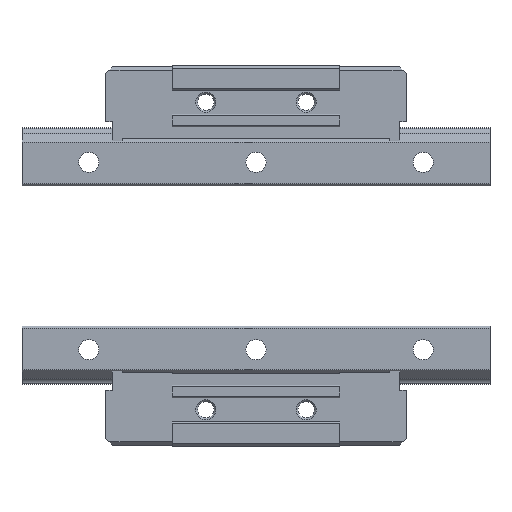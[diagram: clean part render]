
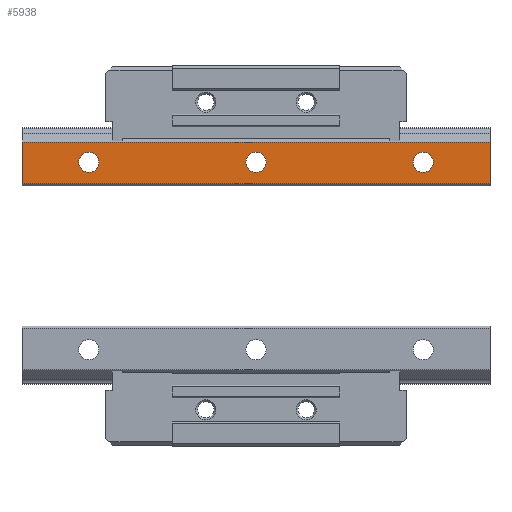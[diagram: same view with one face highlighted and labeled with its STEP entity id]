
A CAD part, front view. The second image highlights one B-rep face of the part: STEP entity #5938.
In plain terms, the highlighted planar face has unit normal (0, -1, 0).
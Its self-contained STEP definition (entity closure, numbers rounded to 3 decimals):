
#96=CIRCLE('',#6307,1.5);
#97=CIRCLE('',#6308,1.5);
#98=CIRCLE('',#6309,1.5);
#196=ORIENTED_EDGE('',*,*,#1923,.F.);
#197=ORIENTED_EDGE('',*,*,#1924,.F.);
#198=ORIENTED_EDGE('',*,*,#1925,.F.);
#199=ORIENTED_EDGE('',*,*,#1926,.T.);
#200=ORIENTED_EDGE('',*,*,#1927,.F.);
#201=ORIENTED_EDGE('',*,*,#1928,.F.);
#202=ORIENTED_EDGE('',*,*,#1921,.T.);
#1921=EDGE_CURVE('',#2785,#2784,#3375,.T.);
#1923=EDGE_CURVE('',#2786,#2786,#96,.T.);
#1924=EDGE_CURVE('',#2787,#2787,#97,.T.);
#1925=EDGE_CURVE('',#2788,#2788,#98,.T.);
#1926=EDGE_CURVE('',#2784,#2789,#3377,.T.);
#1927=EDGE_CURVE('',#2790,#2789,#3378,.T.);
#1928=EDGE_CURVE('',#2785,#2790,#3379,.T.);
#2784=VERTEX_POINT('',#8338);
#2785=VERTEX_POINT('',#8340);
#2786=VERTEX_POINT('',#8344);
#2787=VERTEX_POINT('',#8346);
#2788=VERTEX_POINT('',#8348);
#2789=VERTEX_POINT('',#8350);
#2790=VERTEX_POINT('',#8352);
#3375=LINE('',#8339,#4147);
#3377=LINE('',#8349,#4149);
#3378=LINE('',#8351,#4150);
#3379=LINE('',#8353,#4151);
#4147=VECTOR('',#6731,1000.);
#4149=VECTOR('',#6741,1000.);
#4150=VECTOR('',#6742,1000.);
#4151=VECTOR('',#6743,1000.);
#4916=EDGE_LOOP('',(#196));
#4917=EDGE_LOOP('',(#197));
#4918=EDGE_LOOP('',(#198));
#4919=EDGE_LOOP('',(#199,#200,#201,#202));
#5292=FACE_BOUND('',#4916,.T.);
#5293=FACE_BOUND('',#4917,.T.);
#5294=FACE_BOUND('',#4918,.T.);
#5295=FACE_BOUND('',#4919,.T.);
#5670=PLANE('',#6306);
#5938=ADVANCED_FACE('',(#5292,#5293,#5294,#5295),#5670,.F.);
#6306=AXIS2_PLACEMENT_3D('',#8342,#6733,#6734);
#6307=AXIS2_PLACEMENT_3D('',#8343,#6735,#6736);
#6308=AXIS2_PLACEMENT_3D('',#8345,#6737,#6738);
#6309=AXIS2_PLACEMENT_3D('',#8347,#6739,#6740);
#6731=DIRECTION('',(0.,0.,-1.));
#6733=DIRECTION('',(0.,1.,0.));
#6734=DIRECTION('',(-1.,0.,0.));
#6735=DIRECTION('',(0.,-1.,0.));
#6736=DIRECTION('',(0.,0.,-1.));
#6737=DIRECTION('',(0.,-1.,0.));
#6738=DIRECTION('',(0.,0.,-1.));
#6739=DIRECTION('',(0.,-1.,0.));
#6740=DIRECTION('',(0.,0.,-1.));
#6741=DIRECTION('',(1.,0.,0.));
#6742=DIRECTION('',(0.,0.,-1.));
#6743=DIRECTION('',(1.,0.,0.));
#8338=CARTESIAN_POINT('',(0.3,0.,-60.));
#8339=CARTESIAN_POINT('',(0.3,0.,10.));
#8340=CARTESIAN_POINT('',(0.3,0.,10.));
#8342=CARTESIAN_POINT('',(0.3,0.,10.));
#8343=CARTESIAN_POINT('',(3.5,0.,-25.));
#8344=CARTESIAN_POINT('',(3.5,0.,-26.5));
#8345=CARTESIAN_POINT('',(3.5,0.,-50.));
#8346=CARTESIAN_POINT('',(3.5,0.,-51.5));
#8347=CARTESIAN_POINT('',(3.5,0.,0.));
#8348=CARTESIAN_POINT('',(3.5,0.,-1.5));
#8349=CARTESIAN_POINT('',(0.3,0.,-60.));
#8350=CARTESIAN_POINT('',(6.55,0.,-60.));
#8351=CARTESIAN_POINT('',(6.55,0.,10.));
#8352=CARTESIAN_POINT('',(6.55,0.,10.));
#8353=CARTESIAN_POINT('',(0.3,0.,10.));
